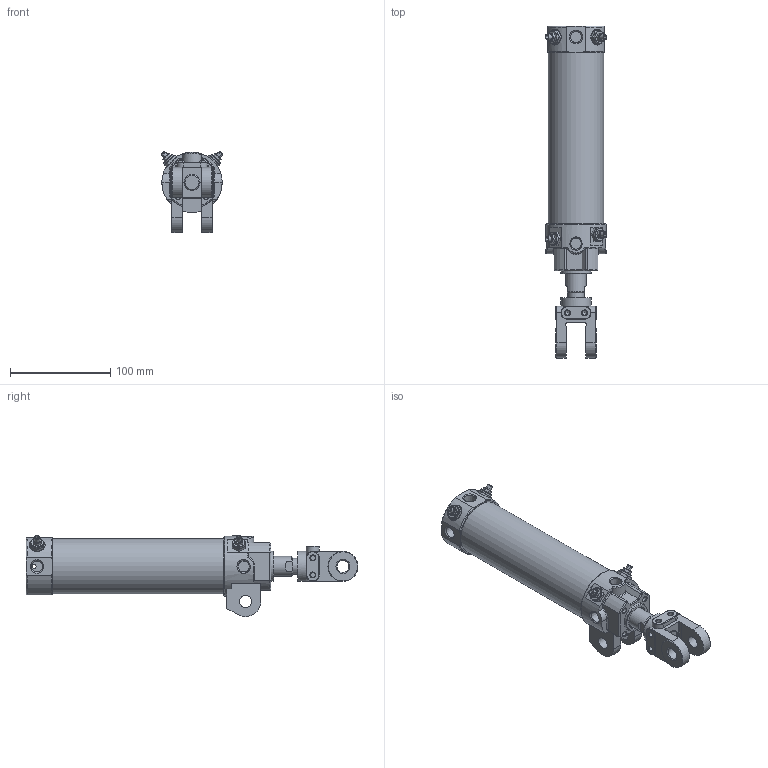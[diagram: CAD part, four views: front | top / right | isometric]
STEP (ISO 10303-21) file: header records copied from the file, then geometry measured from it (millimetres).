
FILE_DESCRIPTION((''),'2;1');
FILE_NAME('I:\3D電子目錄\氣缸\DCK\DCK\DCK-1B-50x125-Y.stp','2008-02-26T14:55:03',('Administrator'),(''),'Autodesk Inventor 11','Autodesk Inventor 11','');
FILE_SCHEMA(('AUTOMOTIVE_DESIGN { 1 0 10303 214 1 1 1 1 }'));
Length unit declared in the file: millimetre
Products named in the file (6): DCK-1B-50-Y; 緩衝針; 緩衝針-1; 緩衝針-201; 緩衝針-3
Assembly tree (8 placements, depth 3):
  DCK-1B-50-Y
    DCK-1B-50-Y
    緩衝針  x4
      緩衝針-1
      緩衝針-201
      緩衝針-3
Bounding box: 61.76 x 331 x 80.87 mm (x, y, z)
Volume: 285918.5 mm3; surface area: 128677.4 mm2
Topology: 15 solids, 15 shells, 647 faces, 1457 edges, 908 vertices
Faces by surface type: plane 240, cylinder 188, cone 143, bspline 40, torus 36
Full cylindrical faces by diameter (mm): 2 x2, 3 x4, 3.8 x2, 4 x6, 4.6 x4, 4.917 x2, 5 x8, 5.1 x4, 5.2 x12, 5.5 x4, 7.25 x1, 7.9 x4, 8 x2, 10.3 x1, 11.3 x1, 12 x6, 12.8 x4, 16 x3, 20 x1, 21 x1, 22 x2, 23 x1, 24.7 x1, 26 x1, 27 x1, 28 x1, 29 x1, 30 x4, 33 x1, 49.5 x1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
Entity records: 14021 total; most frequent: CARTESIAN_POINT 5596, DIRECTION 1727, ORIENTED_EDGE 1528, EDGE_CURVE 764, AXIS2_PLACEMENT_3D 739, EDGE_LOOP 608, VERTEX_POINT 550, FACE_OUTER_BOUND 398
